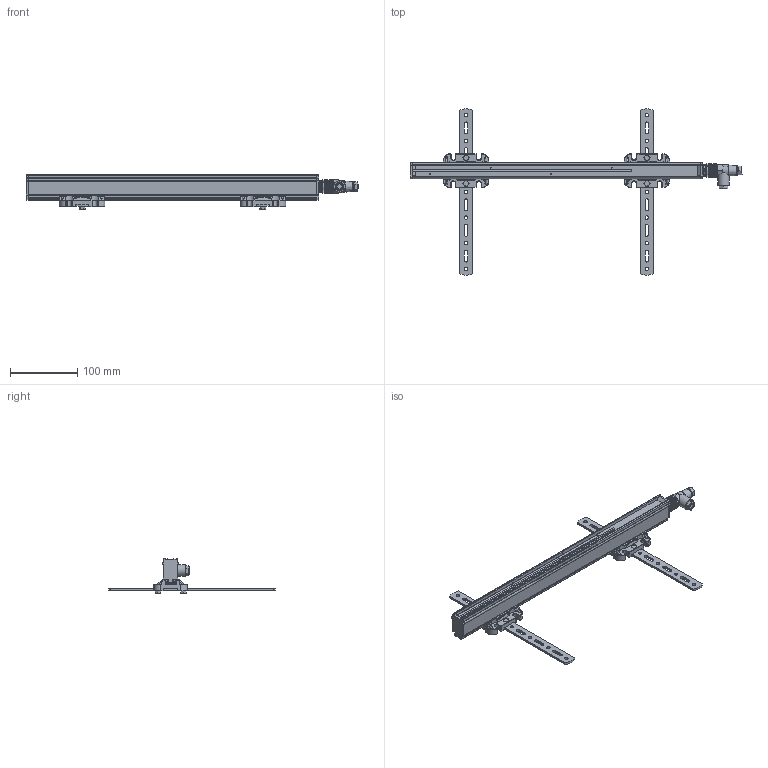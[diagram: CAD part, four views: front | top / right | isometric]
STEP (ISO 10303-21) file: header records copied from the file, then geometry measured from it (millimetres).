
FILE_DESCRIPTION(('Bauteilbeschreibung','HiCAD-Model','HiCAD-STEP-TRANSLATION','Bauteilbeschreibung'),'2;1');
FILE_NAME('Q:/AFDELING/TEKENING/3D-SOLIDS/SIMCO_PERFORMAX_EASY.STP','2011-04-18T14:36:25+00:00',('Konstrukteur'),('Konstrukteur Firma GmbH'),' HiCAD 2010, Step 1502.3 ','HiCAD 2010','confidential');
FILE_SCHEMA(('AUTOMOTIVE_DESIGN { 1 2 10303 214 0 1 1 1 }'));
Products named in the file (44): SIMCO_PERFORMAX_EASY; PERFORMAX_EASY_SPEED; BAR; PROFILE; PIN; PIN0; PIN1; PIN2; POTTING; CONNECTOR_RA_BAUGRUPPE; EXTRUDED SOLID_5; EXTRUDED0SOLID05; REVOLVED SOLID_3; BRACKET_ASSEMBLY; BRACKET_2_2_2; STRIP; ISO 4017_M5X10_10_9_HEX_ HEAD; ISO040170M5X10010090HEX00HEAD; ISO 4032_M5_10_HEXAGON NUTS_0; ISO040320M50100HEXAGON0NUTS00; DIN 1441_5_5_ST_WASHERS FOR ST; DIN0144105050ST0WASHERS0FOR0ST; DIN 916_M 3X6_45H_SET SCREWS_0; DIN09160M03X6045H0SET0SCREWS00; DIN09160M03X6045H0SET0SCREWS000; DIN09160M03X6045H0SET0SCREWS001; BRACKET0ASSEMBLY; BRACKET020202; STRIP0; ISO040170M5X10010090HEX00HEAD0; ISO040170M5X10010090HEX00HEAD1; ISO040320M50100HEXAGON0NUTS000; ISO040320M50100HEXAGON0NUTS001; DIN0144105050ST0WASHERS0FOR0ST0; DIN0144105050ST0WASHERS0FOR0ST1; CONNECTOR STRAIGHT_BAUGRUPPE; EXTRUDED SOLID_5_1; EXTRUDED0SOLID0501; THREAD_1; REVOLVED0SOLID03
Assembly tree (43 placements, depth 5):
  SIMCO_PERFORMAX_EASY
    PERFORMAX_EASY_SPEED
      BAR
        PROFILE
        PIN
        PIN0
        PIN1
        PIN2
        POTTING
      CONNECTOR_RA_BAUGRUPPE
        EXTRUDED SOLID_5
        EXTRUDED0SOLID05
          REVOLVED SOLID_3
      BRACKET_ASSEMBLY
        BRACKET_2_2_2
        STRIP
        ISO 4017_M5X10_10_9_HEX_ HEAD
        ISO040170M5X10010090HEX00HEAD
        ISO 4032_M5_10_HEXAGON NUTS_0
        ISO040320M50100HEXAGON0NUTS00
        DIN 1441_5_5_ST_WASHERS FOR ST
        DIN0144105050ST0WASHERS0FOR0ST
        DIN 916_M 3X6_45H_SET SCREWS_0
        DIN09160M03X6045H0SET0SCREWS00
        DIN09160M03X6045H0SET0SCREWS000
        DIN09160M03X6045H0SET0SCREWS001
      BRACKET0ASSEMBLY
        BRACKET020202
        STRIP0
        ISO040170M5X10010090HEX00HEAD0
        ISO040170M5X10010090HEX00HEAD1
        ISO040320M50100HEXAGON0NUTS000
        ISO040320M50100HEXAGON0NUTS001
        DIN0144105050ST0WASHERS0FOR0ST0
        DIN0144105050ST0WASHERS0FOR0ST1
        DIN09160M03X6045H0SET0SCREWS000
        DIN09160M03X6045H0SET0SCREWS001
        DIN09160M03X6045H0SET0SCREWS000
        DIN09160M03X6045H0SET0SCREWS001
      CONNECTOR STRAIGHT_BAUGRUPPE
        EXTRUDED SOLID_5_1
        EXTRUDED0SOLID0501
          THREAD_1
          REVOLVED0SOLID03
Bounding box: 494.09 x 247.49 x 52.78 mm (x, y, z)
Volume: 368292.3 mm3; surface area: 213729.1 mm2
Topology: 38 solids, 40 shells, 3797 faces, 9795 edges, 6438 vertices
Faces by surface type: plane 2192, cylinder 1290, torus 193, cone 62, bspline 52, sphere 8
Full cylindrical faces by diameter (mm): 0.797 x5, 1.48 x4, 2.387 x8, 3 x8, 4.019 x4, 5 x8, 5.156 x14, 5.5 x12, 7.866 x1, 7.9 x1, 7.965 x1, 8 x2, 8.065 x1, 8.1 x1, 9.957 x1, 10 x5, 10.952 x2, 11 x1, 12 x1, 12.067 x1, 12.944 x1, 13 x1, 14.935 x1, 15 x1, 16 x1, 16.7 x2, 16.773 x1, 16.926 x1, 17.3 x1, 17.922 x1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
Entity records: 247999 total; most frequent: CARTESIAN_POINT 106329, DIRECTION 19735, ORIENTED_EDGE 19074, EDGE_CURVE 9537, COLOUR_RGB 9258, PRESENTATION_STYLE_ASSIGNMENT 9258, OVER_RIDING_STYLED_ITEM 9223, CURVE_STYLE 8975
